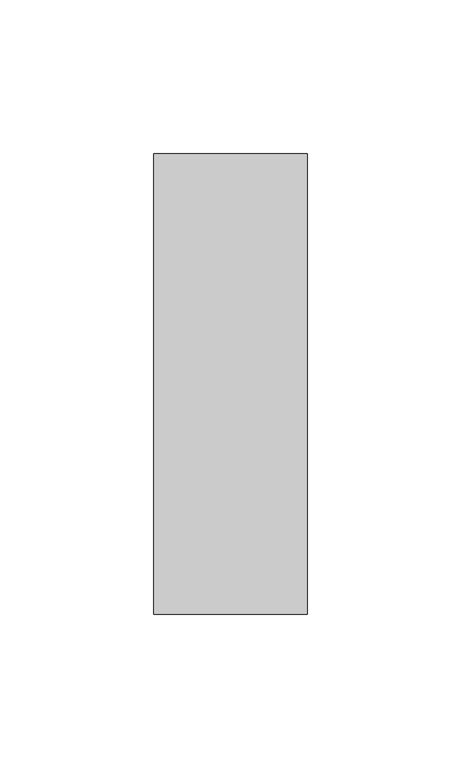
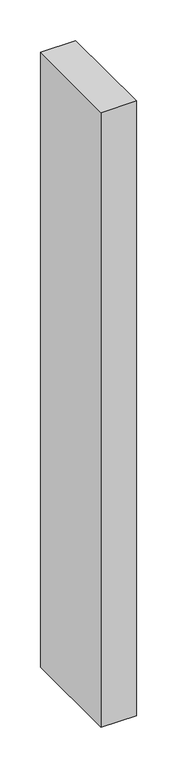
"""IFC4 building model written with IfcOpenShell, lengths in millimetres: member geometry, Прямоугольный импост : 50 x 150 мм."""

from ifc_helpers import new_model, si_unit, frame, origin, place, context, project, spatial, polyline, outline, extrude, source, transform, mapped, element, save


def member_f18afa7b(model_context):
    return source(origin(), model_context, "Body", "SweptSolid", [
        extrude(outline(polyline([(25.0, 75.0), (25.0, -75.0), (-25.0, -75.0), (-25.0, 75.0), (25.0, 75.0)])), frame((0.0, 0.0, -925.3420902), z_axis=(0.0, 0.0, 1.0), x_axis=(1.0, 0.0, 0.0)), (0.0, 0.0, 1.0), 925.3420902),
    ])


if __name__ == "__main__":
    model = new_model("IFC4")
    model_context = context("Model", 3, world=origin())
    ifc_project = project(units=[si_unit("LENGTHUNIT", "METRE", prefix="MILLI")], contexts=[model_context])
    site = spatial("IfcSite", under=ifc_project)
    building = spatial("IfcBuilding", under=site)
    placement = place(None, origin())
    member_shape = member_f18afa7b(model_context)
    element("IfcMember", 1, ObjectType="Прямоугольный импост : 50 x 150 мм", at=placement, inside=building, context=model_context, shape_type="MappedRepresentation", body=[
        mapped(member_shape, transform((0.0, 0.0, 0.0), x_axis=(1.0, 0.0, 0.0), y_axis=(0.0, 1.0, 0.0), z_axis=(0.0, 0.0, 1.0))),
    ])
    save(model, "model.ifc")
